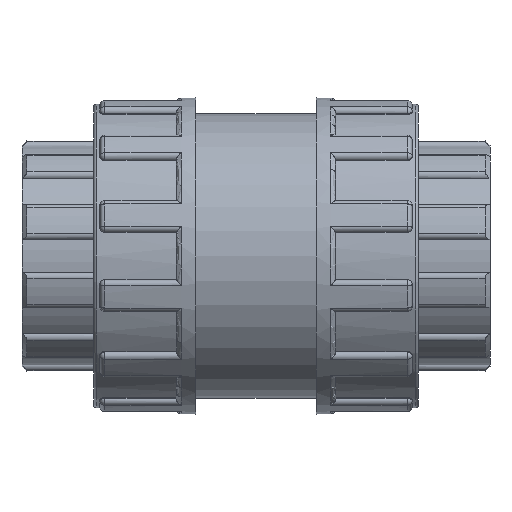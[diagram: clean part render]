
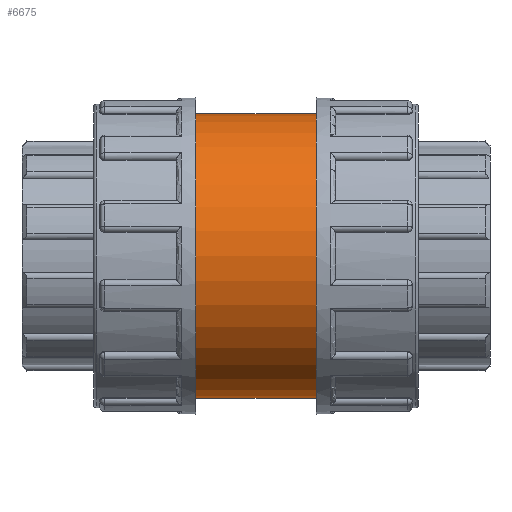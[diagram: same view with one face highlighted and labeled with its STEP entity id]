
A CAD part, front view. The second image highlights one B-rep face of the part: STEP entity #6675.
In plain terms, the highlighted cylindrical face has radius 43.2 mm (diameter 86.4 mm), a full revolution.
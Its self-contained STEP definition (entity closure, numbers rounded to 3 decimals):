
#185=FACE_BOUND('',#1099,.T.);
#186=FACE_BOUND('',#1100,.T.);
#670=FACE_OUTER_BOUND('',#1098,.T.);
#1098=EDGE_LOOP('',(#6073));
#1099=EDGE_LOOP('',(#6074));
#1100=EDGE_LOOP('',(#6075));
#1149=B_SPLINE_CURVE_WITH_KNOTS('',3,(#10735,#10736,#10737,#10738,#10739,
#10740,#10741,#10742,#10743,#10744,#10745,#10746,#10747,#10748,#10749,#10750,
#10751,#10752,#10753,#10754,#10755,#10756,#10757,#10758,#10759,#10760,#10761,
#10762,#10763,#10764,#10765,#10766,#10767,#10768,#10769,#10770,#10771,#10772,
#10773,#10774,#10775,#10776,#10777,#10778,#10779,#10780,#10781,#10782,#10783,
#10784),.UNSPECIFIED.,.T.,.F.,(4,2,2,2,2,2,2,2,2,2,2,2,2,2,2,2,2,2,2,2,
2,2,2,2,4),(0.,0.274,0.547,1.094,1.641,
1.915,2.188,2.461,2.735,3.282,
3.829,4.102,4.376,4.649,4.923,
5.47,6.017,6.29,6.564,6.837,
7.111,7.658,8.205,8.478,8.752),
 .UNSPECIFIED.);
#2472=CIRCLE('',#7578,43.2);
#2473=CIRCLE('',#7580,43.2);
#2638=VERTEX_POINT('',#10734);
#3083=VERTEX_POINT('',#13369);
#3084=VERTEX_POINT('',#13372);
#3349=EDGE_CURVE('',#2638,#2638,#1149,.T.);
#4082=EDGE_CURVE('',#3083,#3083,#2472,.T.);
#4083=EDGE_CURVE('',#3084,#3084,#2473,.T.);
#6073=ORIENTED_EDGE('',*,*,#4082,.T.);
#6074=ORIENTED_EDGE('',*,*,#3349,.T.);
#6075=ORIENTED_EDGE('',*,*,#4083,.F.);
#6267=CYLINDRICAL_SURFACE('',#7579,43.2);
#6675=ADVANCED_FACE('',(#670,#185,#186),#6267,.T.);
#7578=AXIS2_PLACEMENT_3D('',#13370,#9749,#9750);
#7579=AXIS2_PLACEMENT_3D('',#13371,#9751,#9752);
#7580=AXIS2_PLACEMENT_3D('',#13373,#9753,#9754);
#9749=DIRECTION('center_axis',(1.,0.,0.));
#9750=DIRECTION('ref_axis',(0.,0.,-1.));
#9751=DIRECTION('center_axis',(1.,0.,0.));
#9752=DIRECTION('ref_axis',(0.,1.,0.));
#9753=DIRECTION('center_axis',(1.,0.,0.));
#9754=DIRECTION('ref_axis',(0.,0.,-1.));
#10734=CARTESIAN_POINT('',(0.,40.729,-14.4));
#10735=CARTESIAN_POINT('Ctrl Pts',(0.,40.729,
-14.4));
#10736=CARTESIAN_POINT('Ctrl Pts',(0.912,40.729,-14.4));
#10737=CARTESIAN_POINT('Ctrl Pts',(1.852,40.761,-14.312));
#10738=CARTESIAN_POINT('Ctrl Pts',(3.719,40.888,-13.944));
#10739=CARTESIAN_POINT('Ctrl Pts',(4.644,40.984,-13.664));
#10740=CARTESIAN_POINT('Ctrl Pts',(7.302,41.341,-12.559));
#10741=CARTESIAN_POINT('Ctrl Pts',(8.911,41.675,-11.453));
#10742=CARTESIAN_POINT('Ctrl Pts',(11.453,42.291,-8.912));
#10743=CARTESIAN_POINT('Ctrl Pts',(12.559,42.616,-7.302));
#10744=CARTESIAN_POINT('Ctrl Pts',(13.664,42.959,-4.644));
#10745=CARTESIAN_POINT('Ctrl Pts',(13.944,43.05,-3.718));
#10746=CARTESIAN_POINT('Ctrl Pts',(14.312,43.17,-1.852));
#10747=CARTESIAN_POINT('Ctrl Pts',(14.4,43.2,-0.911));
#10748=CARTESIAN_POINT('Ctrl Pts',(14.4,43.2,0.911));
#10749=CARTESIAN_POINT('Ctrl Pts',(14.312,43.17,1.852));
#10750=CARTESIAN_POINT('Ctrl Pts',(13.944,43.05,3.718));
#10751=CARTESIAN_POINT('Ctrl Pts',(13.664,42.959,4.644));
#10752=CARTESIAN_POINT('Ctrl Pts',(12.559,42.616,7.302));
#10753=CARTESIAN_POINT('Ctrl Pts',(11.453,42.291,8.912));
#10754=CARTESIAN_POINT('Ctrl Pts',(8.911,41.675,11.453));
#10755=CARTESIAN_POINT('Ctrl Pts',(7.302,41.341,12.559));
#10756=CARTESIAN_POINT('Ctrl Pts',(4.644,40.984,13.664));
#10757=CARTESIAN_POINT('Ctrl Pts',(3.719,40.888,13.944));
#10758=CARTESIAN_POINT('Ctrl Pts',(1.852,40.761,14.312));
#10759=CARTESIAN_POINT('Ctrl Pts',(0.912,40.729,14.4));
#10760=CARTESIAN_POINT('Ctrl Pts',(-0.912,40.729,
14.4));
#10761=CARTESIAN_POINT('Ctrl Pts',(-1.852,40.761,14.312));
#10762=CARTESIAN_POINT('Ctrl Pts',(-3.719,40.888,13.944));
#10763=CARTESIAN_POINT('Ctrl Pts',(-4.644,40.984,13.664));
#10764=CARTESIAN_POINT('Ctrl Pts',(-7.302,41.341,12.559));
#10765=CARTESIAN_POINT('Ctrl Pts',(-8.911,41.675,11.453));
#10766=CARTESIAN_POINT('Ctrl Pts',(-11.453,42.291,8.912));
#10767=CARTESIAN_POINT('Ctrl Pts',(-12.559,42.616,7.302));
#10768=CARTESIAN_POINT('Ctrl Pts',(-13.664,42.959,4.644));
#10769=CARTESIAN_POINT('Ctrl Pts',(-13.944,43.05,3.718));
#10770=CARTESIAN_POINT('Ctrl Pts',(-14.312,43.17,1.852));
#10771=CARTESIAN_POINT('Ctrl Pts',(-14.4,43.2,0.911));
#10772=CARTESIAN_POINT('Ctrl Pts',(-14.4,43.2,-0.911));
#10773=CARTESIAN_POINT('Ctrl Pts',(-14.312,43.17,-1.852));
#10774=CARTESIAN_POINT('Ctrl Pts',(-13.944,43.05,-3.718));
#10775=CARTESIAN_POINT('Ctrl Pts',(-13.664,42.959,-4.644));
#10776=CARTESIAN_POINT('Ctrl Pts',(-12.559,42.616,-7.302));
#10777=CARTESIAN_POINT('Ctrl Pts',(-11.453,42.291,-8.912));
#10778=CARTESIAN_POINT('Ctrl Pts',(-8.911,41.675,-11.453));
#10779=CARTESIAN_POINT('Ctrl Pts',(-7.302,41.341,-12.559));
#10780=CARTESIAN_POINT('Ctrl Pts',(-4.644,40.984,-13.664));
#10781=CARTESIAN_POINT('Ctrl Pts',(-3.719,40.888,-13.944));
#10782=CARTESIAN_POINT('Ctrl Pts',(-1.852,40.761,-14.312));
#10783=CARTESIAN_POINT('Ctrl Pts',(-0.912,40.729,
-14.4));
#10784=CARTESIAN_POINT('Ctrl Pts',(0.,40.729,-14.4));
#13369=CARTESIAN_POINT('',(-18.3,43.2,0.));
#13370=CARTESIAN_POINT('Origin',(-18.3,0.,0.));
#13371=CARTESIAN_POINT('Origin',(0.,0.,0.));
#13372=CARTESIAN_POINT('',(18.3,43.2,0.));
#13373=CARTESIAN_POINT('Origin',(18.3,0.,0.));
